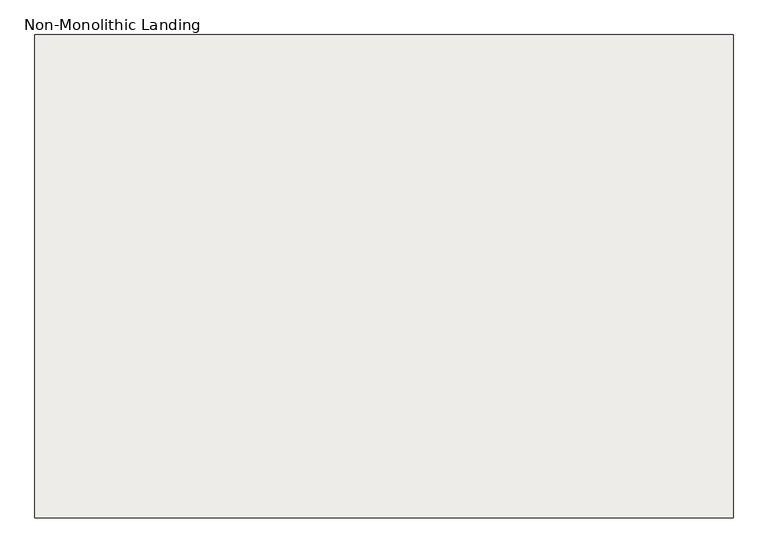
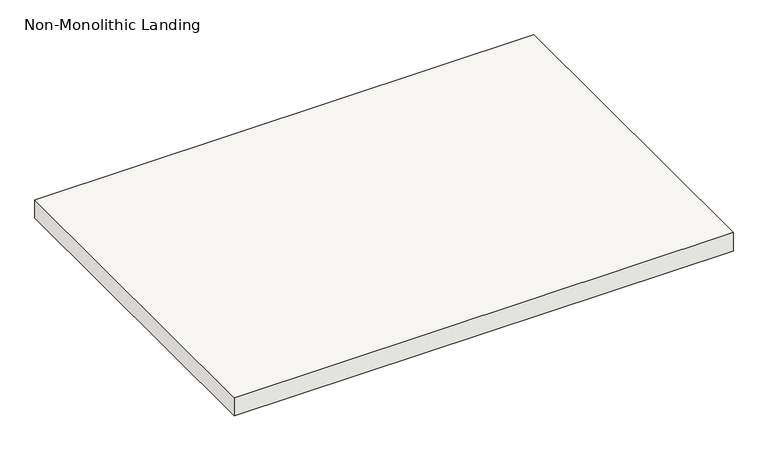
"""IFC4 building model written with IfcOpenShell, lengths in millimetres: slab geometry, Non-Monolithic Landing."""

from ifc_helpers import new_model, si_unit, frame, origin, place, context, project, spatial, polyline, outline, extrude, source, transform, mapped, element, save


def non_monolithic_landing_dd0db0fe(model_context):
    return source(origin(), model_context, "Body", "SweptSolid", [
        extrude(outline(polyline([(1098.5536861, 44245.3361774), (2419.3536861, 44245.3361774), (2419.3536861, 43330.9361774), (1098.5536861, 43330.9361774), (1098.5536861, 44245.3361774)])), frame((0.0, 0.0, 2126.3428571), z_axis=(0.0, 0.0, 1.0), x_axis=(1.0, 0.0, 0.0)), (0.0, 0.0, 1.0), 50.8),
    ])


if __name__ == "__main__":
    model = new_model("IFC4")
    model_context = context("Model", 3, world=origin())
    ifc_project = project(units=[si_unit("LENGTHUNIT", "METRE", prefix="MILLI")], contexts=[model_context])
    site = spatial("IfcSite", under=ifc_project)
    building = spatial("IfcBuilding", under=site)
    placement = place(None, origin())
    non_monolithic_landing_shape = non_monolithic_landing_dd0db0fe(model_context)
    element("IfcSlab", 1, ObjectType="Non-Monolithic Landing", at=placement, inside=building, context=model_context, shape_type="MappedRepresentation", body=[
        mapped(non_monolithic_landing_shape, transform((0.0, 0.0, 0.0), x_axis=(1.0, 0.0, 0.0), y_axis=(0.0, 1.0, 0.0), z_axis=(0.0, 0.0, 1.0))),
    ])
    save(model, "model.ifc")
